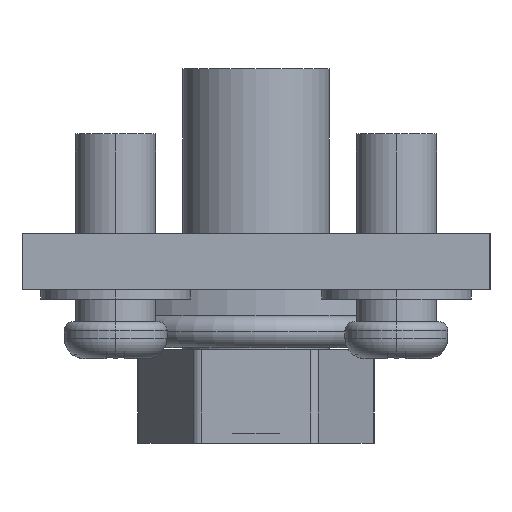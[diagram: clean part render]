
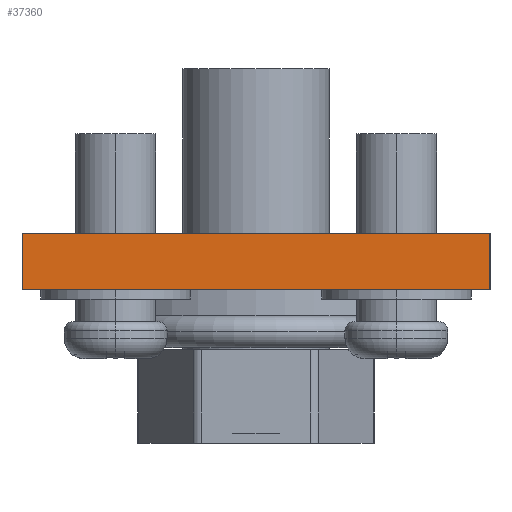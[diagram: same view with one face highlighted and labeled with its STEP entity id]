
A CAD part, left-side view. The second image highlights one B-rep face of the part: STEP entity #37360.
In plain terms, the highlighted planar face has unit normal (-1, 0, 0).
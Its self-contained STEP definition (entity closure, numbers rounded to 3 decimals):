
#33210=CARTESIAN_POINT('',(68.512,66.46,0.));
#33220=DIRECTION('',(0.,-1.,0.));
#33230=VECTOR('',#33220,1.);
#33240=LINE('',#33210,#33230);
#33250=CARTESIAN_POINT('',(68.512,66.46,0.));
#33260=VERTEX_POINT('',#33250);
#33270=CARTESIAN_POINT('',(68.512,41.46,0.));
#33280=VERTEX_POINT('',#33270);
#33290=EDGE_CURVE('',#33260,#33280,#33240,.T.);
#36580=CARTESIAN_POINT('',(68.512,66.46,3.));
#36590=VERTEX_POINT('',#36580);
#36620=CARTESIAN_POINT('',(68.512,66.46,3.));
#36630=DIRECTION('',(0.,0.,-1.));
#36640=VECTOR('',#36630,1.);
#36650=LINE('',#36620,#36640);
#36660=EDGE_CURVE('',#36590,#33260,#36650,.T.);
#37010=CARTESIAN_POINT('',(68.512,41.46,3.));
#37020=DIRECTION('',(0.,0.,-1.));
#37030=VECTOR('',#37020,1.);
#37040=LINE('',#37010,#37030);
#37050=CARTESIAN_POINT('',(68.512,41.46,3.));
#37060=VERTEX_POINT('',#37050);
#37070=EDGE_CURVE('',#37060,#33280,#37040,.T.);
#37200=CARTESIAN_POINT('',(68.512,41.46,0.));
#37210=DIRECTION('',(-1.,0.,0.));
#37220=DIRECTION('',(0.,1.,0.));
#37230=AXIS2_PLACEMENT_3D('',#37200,#37210,#37220);
#37240=PLANE('',#37230);
#37250=ORIENTED_EDGE('',*,*,#36660,.T.);
#37260=CARTESIAN_POINT('',(68.512,66.46,3.));
#37270=DIRECTION('',(0.,-1.,0.));
#37280=VECTOR('',#37270,1.);
#37290=LINE('',#37260,#37280);
#37300=EDGE_CURVE('',#36590,#37060,#37290,.T.);
#37310=ORIENTED_EDGE('',*,*,#37300,.F.);
#37320=ORIENTED_EDGE('',*,*,#37070,.F.);
#37330=ORIENTED_EDGE('',*,*,#33290,.T.);
#37340=EDGE_LOOP('',(#37330,#37320,#37310,#37250));
#37350=FACE_OUTER_BOUND('',#37340,.T.);
#37360=ADVANCED_FACE('',(#37350),#37240,.T.);
